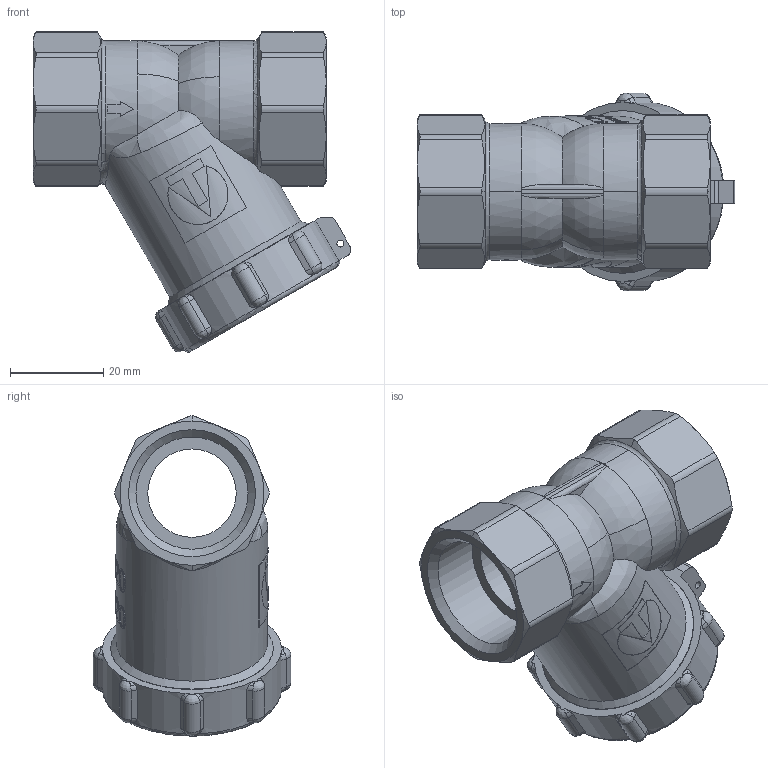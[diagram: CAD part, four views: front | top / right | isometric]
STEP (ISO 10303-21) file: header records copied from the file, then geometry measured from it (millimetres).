
FILE_DESCRIPTION(('TFLEX Exchange Step'),'2;1');
FILE_NAME('Strainer DN20 3_4 VT.193.N Valtec.stp', '2023-09-12T14:28:42+03:00',('denis'),('Unknown organisation'),'TFLEX Exchange 2023.0','T-FLEX CAD','Unknown authorisation');
FILE_SCHEMA( ('AUTOMOTIVE_DESIGN { 1 0 10303 214 1 1 1 1 }') );
Length unit declared in the file: millimetre
Products named in the file (1): Nodes
Bounding box: 68.29 x 42.5 x 68.85 mm (x, y, z)
Volume: 56307.3 mm3; surface area: 16046.4 mm2
Topology: 1 solids, 1 shells, 404 faces, 1107 edges, 726 vertices
Faces by surface type: plane 134, cylinder 119, bspline 111, cone 29, sphere 8, torus 3
Full cylindrical faces by diameter (mm): 1.5 x1, 19 x1, 24.1 x2, 32.5 x1, 35 x1
Entity records: 22971 total; most frequent: CARTESIAN_POINT 14216, ORIENTED_EDGE 2214, DIRECTION 1225, EDGE_CURVE 1107, VERTEX_POINT 726, B_SPLINE_CURVE_WITH_KNOTS 543, AXIS2_PLACEMENT_3D 465, EDGE_LOOP 429
